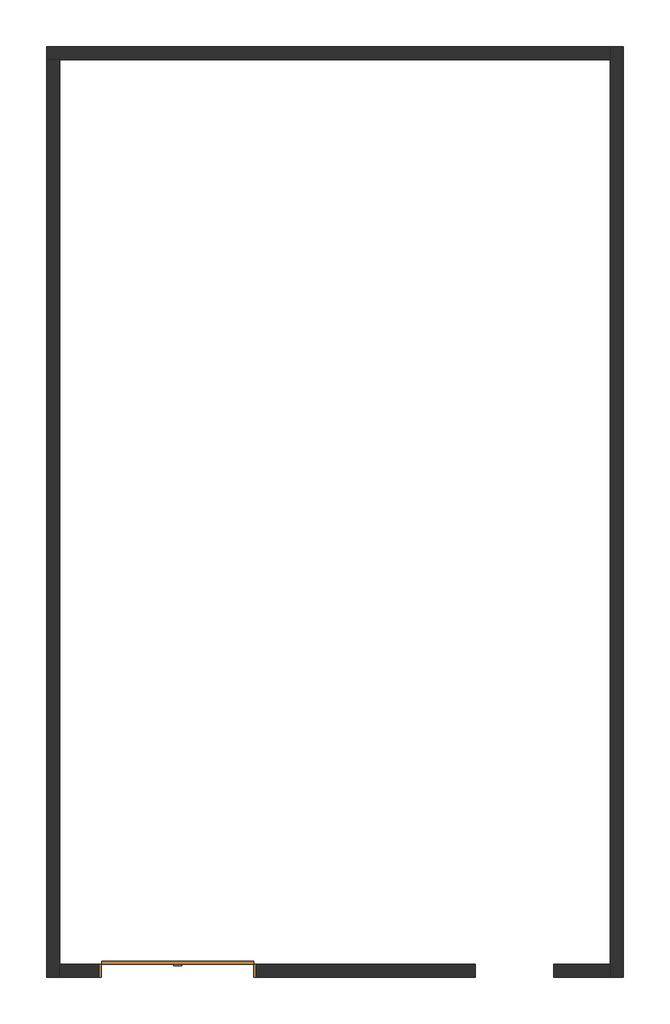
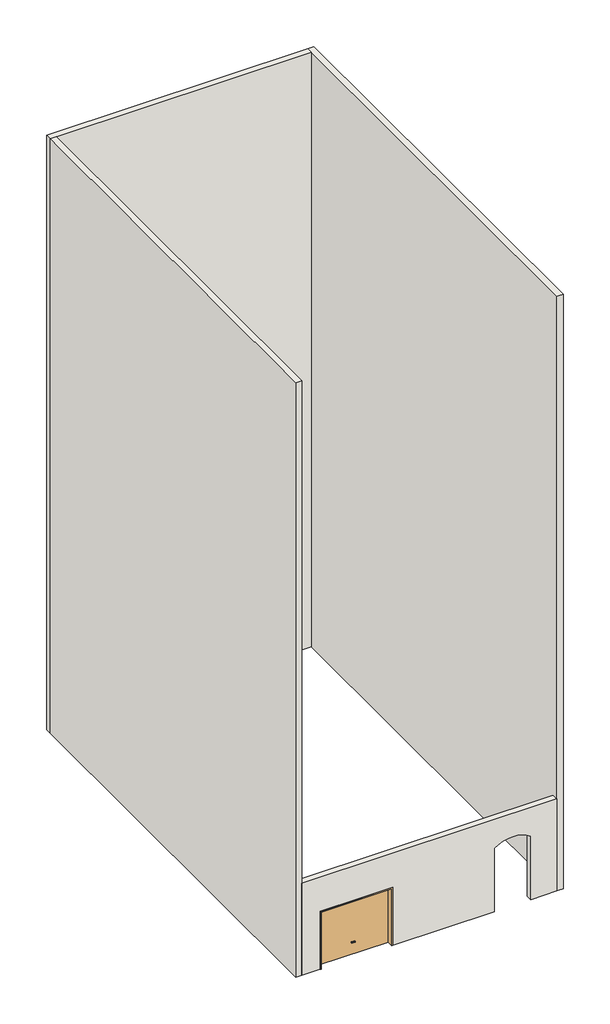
# One storey, incomplete: 4 walls, 1 door.
"""IFC4 building model written with IfcOpenShell, lengths in millimetres."""

from ifc_helpers import new_model, si_unit, point, frame, frame_2d, origin, place, context, project, spatial, polyline, circle_curve, trimmed, segment, composite_curve, outline, extrude, faceted_brep, transform, mapped, element, save
from components import overhead_sectional_nz_2400_x_1980_766037b8

model = new_model("IFC4")

# Units and contexts
model_context = context("Model", 3, world=origin())
ifc_project = project(units=[si_unit("LENGTHUNIT", "METRE", prefix="MILLI")], contexts=[model_context])

# Site, building, storey
site = spatial("IfcSite", under=ifc_project)
building = spatial("IfcBuilding", under=site)
storey = spatial("IfcBuildingStorey", under=building, Name="همکف", Elevation=0.0)

# Door
placement = place(None, origin())
overhead_sectional_nz_2400_x_1980_shape = overhead_sectional_nz_2400_x_1980_766037b8(model_context)
element("IfcDoor", 1, ObjectType="Overhead-Sectional (NZ) : 2400 x 1980", at=placement, inside=storey, context=model_context, shape_type="MappedRepresentation", body=[
    mapped(overhead_sectional_nz_2400_x_1980_shape, transform((-4361.8945901, 1131.9973325, 0.0), x_axis=(-1.0, 0.0, 0.0), y_axis=(0.0, -1.0, 0.0), z_axis=(0.0, 0.0, 1.0))),
])

# Walls
element("IfcWall", 2, ObjectType="Generic - 200mm", at=placement, inside=storey, context=model_context, shape_type="Brep", body=[
    faceted_brep([(2438.1054099, 1031.9973325, 0.0), (2438.1054099, 15231.9973325, 0.0), (2438.1054099, 15231.9973325, 20700.0), (2438.1054099, 1031.9973325, 20700.0), (2438.1054099, 1031.9973325, 3200.0), (2238.1054099, 1031.9973325, 0.0), (2238.1054099, 1031.9973325, 3200.0), (2238.1054099, 1031.9973325, 20700.0), (2238.1054099, 15031.9973325, 20700.0), (2238.1054099, 15231.9973325, 20700.0), (2238.1054099, 15231.9973325, 0.0), (2238.1054099, 15031.9973325, 0.0), (2238.1054099, 1231.9973325, 0.0)], [[[0, 1, 2, 3, 4]], [[5, 6, 7, 8, 9, 10, 11, 12]], [[1, 0, 5, 12, 11, 10]], [[3, 2, 9, 8, 7]], [[0, 4, 3, 7, 6, 5]], [[2, 1, 10, 9]]]),
])
element("IfcWall", 3, ObjectType="Generic - 200mm", at=placement, inside=storey, context=model_context, shape_type="Brep", body=[
    faceted_brep([(2238.1054099, 15231.9973325, 0.0), (-6361.8945901, 15231.9973325, 0.0), (-6361.8945901, 15231.9973325, 20700.0), (2238.1054099, 15231.9973325, 20700.0), (2238.1054099, 15031.9973325, 0.0), (2238.1054099, 15031.9973325, 20700.0), (-6161.8945901, 15031.9973325, 20700.0), (-6361.8945901, 15031.9973325, 20700.0), (-6361.8945901, 15031.9973325, 0.0), (-6161.8945901, 15031.9973325, 0.0)], [[[0, 1, 2, 3]], [[4, 5, 6, 7, 8, 9]], [[1, 0, 4, 9, 8]], [[3, 2, 7, 6, 5]], [[0, 3, 5, 4]], [[2, 1, 8, 7]]]),
])
element("IfcWall", 4, ObjectType="Generic - 200mm", at=placement, inside=storey, context=model_context, shape_type="Brep", body=[
    faceted_brep([(-6361.8945901, 15031.9973325, 0.0), (-6361.8945901, 1031.9973325, 0.0), (-6361.8945901, 1031.9973325, 3200.0), (-6361.8945901, 1031.9973325, 20700.0), (-6361.8945901, 15031.9973325, 20700.0), (-6161.8945901, 15031.9973325, 0.0), (-6161.8945901, 15031.9973325, 20700.0), (-6161.8945901, 1031.9973325, 20700.0), (-6161.8945901, 1031.9973325, 3200.0), (-6161.8945901, 1031.9973325, 0.0), (-6161.8945901, 1231.9973325, 0.0)], [[[0, 1, 2, 3, 4]], [[5, 6, 7, 8, 9, 10]], [[1, 0, 5, 10, 9]], [[4, 3, 7, 6]], [[0, 4, 6, 5]], [[3, 2, 1, 9, 8, 7]]]),
])
element("IfcWall", 5, ObjectType="Generic - 200mm", at=placement, inside=storey, context=model_context, shape_type="SweptSolid", body=[
    extrude(outline(composite_curve([segment(polyline([(0.0, -3161.8945901), (0.0, 178.1054099), (2200.0, 178.1054099)]), True, "CONTINUOUS"), segment(trimmed(circle_curve(frame_2d((1406.3187798, 775.99915)), 993.6834525), [point((2200.0, 178.1054099))], [point((2400.0, 778.1054099))], True, "CARTESIAN"), True, "CONTINUOUS"), segment(trimmed(circle_curve(frame_2d((1406.3187798, 780.2116698)), 993.6834525), [point((2400.0, 778.1054099))], [point((2200.0, 1378.1054099))], True, "CARTESIAN"), True, "CONTINUOUS"), segment(polyline([(2200.0, 1378.1054099), (0.0, 1378.1054099), (0.0, 2238.1054099), (3200.0, 2238.1054099), (3200.0, -6161.8945901), (0.0, -6161.8945901), (0.0, -5561.8945901), (2017.0, -5561.8945901), (2017.0, -3161.8945901), (0.0, -3161.8945901)]), True, "CONTINUOUS")], self_intersect=False)), frame((0.0, 1031.9973325, 0.0), z_axis=(0.0, 1.0, 0.0), x_axis=(0.0, 0.0, 1.0)), (0.0, 0.0, 1.0), 200.0),
])

save(model, "model.ifc")
